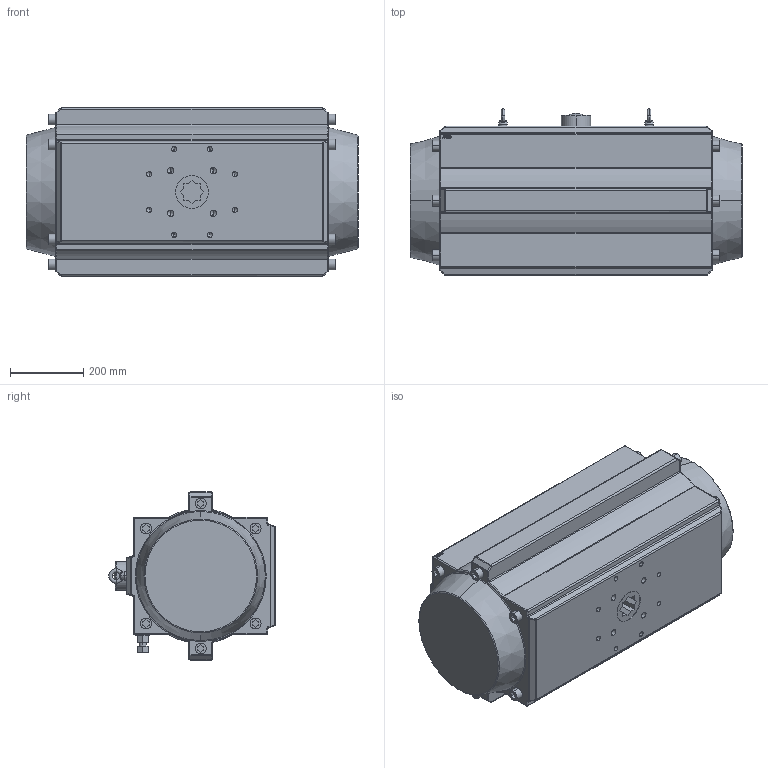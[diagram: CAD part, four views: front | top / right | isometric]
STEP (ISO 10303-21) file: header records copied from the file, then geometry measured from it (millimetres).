
FILE_DESCRIPTION (( 'STEP AP203' ), '1' );
FILE_NAME ('AP350.STEP', '2020-04-08T11:55:22', ( '' ), ( '' ), 'SwSTEP 2.0', 'SolidWorks 2017', '' );
FILE_SCHEMA (( 'CONFIG_CONTROL_DESIGN' ));
Length unit declared in the file: millimetre
Products named in the file (1): AP350
Bounding box: 909 x 456 x 460 mm (x, y, z)
Volume: 116973523.9 mm3; surface area: 1690291 mm2
Topology: 1 solids, 1 shells, 670 faces, 1604 edges, 955 vertices
Faces by surface type: plane 246, cylinder 180, cone 84, bspline 78, torus 64, sphere 18
Entity records: 23487 total; most frequent: CARTESIAN_POINT 8512, ORIENTED_EDGE 3096, DIRECTION 3040, EDGE_CURVE 1548, AXIS2_PLACEMENT_3D 1107, VERTEX_POINT 955, LINE 826, VECTOR 826
